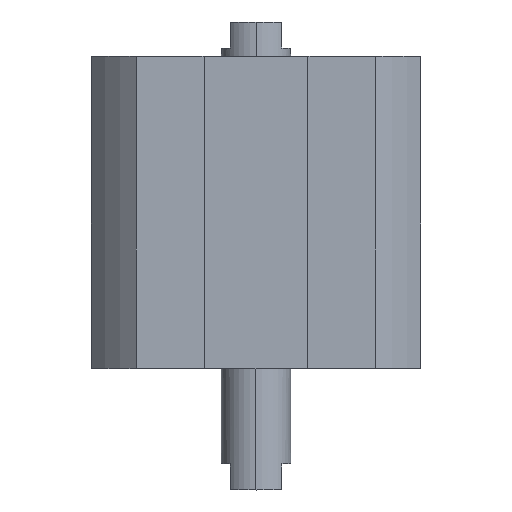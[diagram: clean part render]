
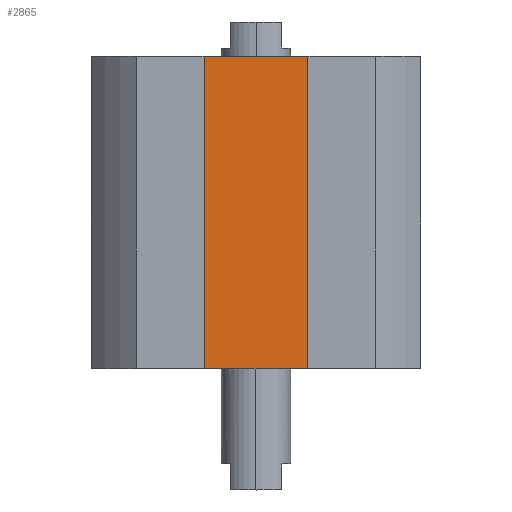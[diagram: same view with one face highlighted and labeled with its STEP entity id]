
A CAD part, top view. The second image highlights one B-rep face of the part: STEP entity #2865.
In plain terms, the highlighted planar face has unit normal (0, 0, 1).
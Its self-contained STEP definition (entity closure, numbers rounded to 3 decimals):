
#21 = VERTEX_POINT ( 'NONE', #322 ) ;
#261 = DIRECTION ( 'NONE',  ( 0., 1., 0. ) ) ;
#322 = CARTESIAN_POINT ( 'NONE',  ( 7.75, 0., 12.75 ) ) ;
#389 = EDGE_LOOP ( 'NONE', ( #2219, #591, #1166, #2637 ) ) ;
#452 = EDGE_CURVE ( 'NONE', #1980, #21, #917, .T. ) ;
#533 = CARTESIAN_POINT ( 'NONE',  ( 7.75, -36., 12.75 ) ) ;
#591 = ORIENTED_EDGE ( 'NONE', *, *, #3458, .F. ) ;
#855 = DIRECTION ( 'NONE',  ( 0., 1., 0. ) ) ;
#867 = CARTESIAN_POINT ( 'NONE',  ( -7.75, -36., 12.75 ) ) ;
#890 = VERTEX_POINT ( 'NONE', #533 ) ;
#917 = LINE ( 'NONE', #1304, #955 ) ;
#955 = VECTOR ( 'NONE', #3541, 1000. ) ;
#1085 = VERTEX_POINT ( 'NONE', #1126 ) ;
#1126 = CARTESIAN_POINT ( 'NONE',  ( -7.75, -36., 12.75 ) ) ;
#1127 = EDGE_CURVE ( 'NONE', #890, #21, #1252, .T. ) ;
#1151 = DIRECTION ( 'NONE',  ( 1., 0., 0. ) ) ;
#1166 = ORIENTED_EDGE ( 'NONE', *, *, #3438, .T. ) ;
#1252 = LINE ( 'NONE', #3340, #1830 ) ;
#1304 = CARTESIAN_POINT ( 'NONE',  ( 0., 0., 12.75 ) ) ;
#1322 = VECTOR ( 'NONE', #855, 1000. ) ;
#1405 = FACE_OUTER_BOUND ( 'NONE', #389, .T. ) ;
#1728 = VECTOR ( 'NONE', #2493, 1000. ) ;
#1830 = VECTOR ( 'NONE', #261, 1000. ) ;
#1920 = CARTESIAN_POINT ( 'NONE',  ( -7.75, 0., 12.75 ) ) ;
#1927 = CARTESIAN_POINT ( 'NONE',  ( 0., -36., 12.75 ) ) ;
#1980 = VERTEX_POINT ( 'NONE', #1920 ) ;
#2110 = LINE ( 'NONE', #867, #1322 ) ;
#2219 = ORIENTED_EDGE ( 'NONE', *, *, #452, .F. ) ;
#2493 = DIRECTION ( 'NONE',  ( 1., 0., 0. ) ) ;
#2637 = ORIENTED_EDGE ( 'NONE', *, *, #1127, .T. ) ;
#2811 = PLANE ( 'NONE',  #3551 ) ;
#2865 = ADVANCED_FACE ( 'NONE', ( #1405 ), #2811, .T. ) ;
#3075 = DIRECTION ( 'NONE',  ( 0., 0., 1. ) ) ;
#3090 = CARTESIAN_POINT ( 'NONE',  ( 0., -36., 12.75 ) ) ;
#3340 = CARTESIAN_POINT ( 'NONE',  ( 7.75, -36., 12.75 ) ) ;
#3438 = EDGE_CURVE ( 'NONE', #1085, #890, #3512, .T. ) ;
#3458 = EDGE_CURVE ( 'NONE', #1085, #1980, #2110, .T. ) ;
#3512 = LINE ( 'NONE', #1927, #1728 ) ;
#3541 = DIRECTION ( 'NONE',  ( 1., 0., 0. ) ) ;
#3551 = AXIS2_PLACEMENT_3D ( 'NONE', #3090, #3075, #1151 ) ;
